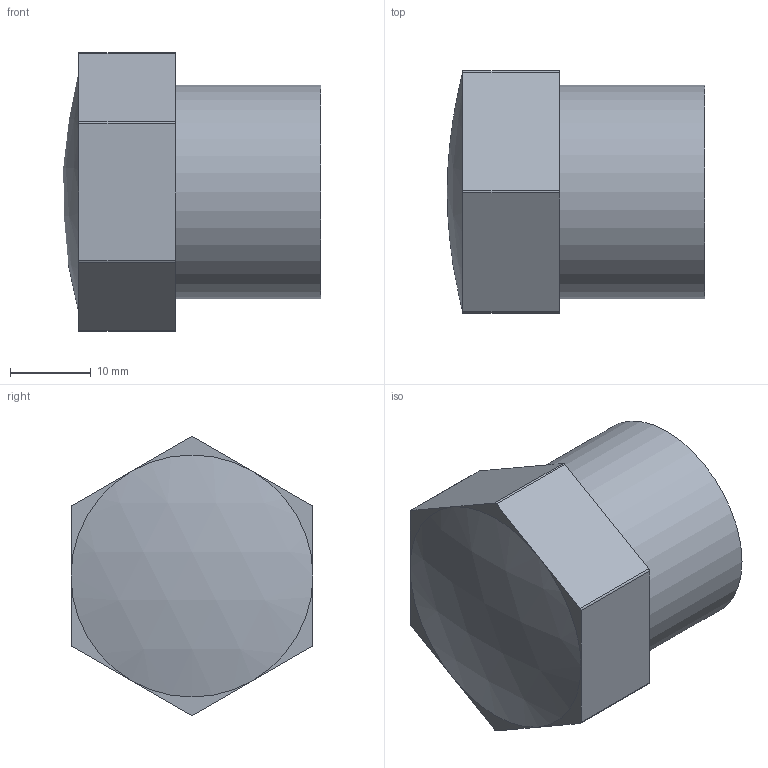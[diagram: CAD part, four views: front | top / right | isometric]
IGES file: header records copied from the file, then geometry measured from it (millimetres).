
Global section: file name: 051701007.ipt; native system: Autodesk Inventor 2015; preprocessor: unknown; author: KIM; date: 20171207.165336; units: millimetre
Bounding box: 31.92 x 30 x 34.55 mm (x, y, z)
Volume: 11871.1 mm3; surface area: 5804.1 mm2
Topology: 1 solids, 1 shells, 24 faces, 56 edges, 36 vertices
Faces by surface type: plane 14, cylinder 7, revolution 2, sphere 1
Full cylindrical faces by diameter (mm): 26.441 x1
